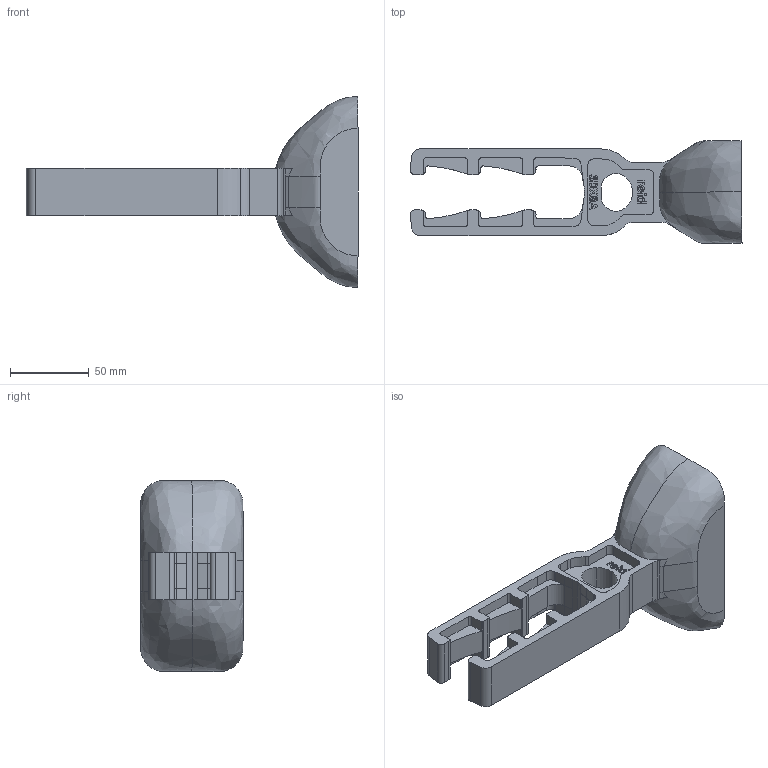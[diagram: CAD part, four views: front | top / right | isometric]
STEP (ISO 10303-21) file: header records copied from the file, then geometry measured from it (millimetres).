
FILE_DESCRIPTION (( 'STEP AP203' ), '1' );
FILE_NAME ('3DX8A and 3DX8AVF for BIM.STEP', '2025-04-08T06:23:18', ( '' ), ( '' ), 'SwSTEP 2.0', 'SolidWorks 2024', '' );
FILE_SCHEMA (( 'CONFIG_CONTROL_DESIGN' ));
Length unit declared in the file: millimetre
Products named in the file (1): 3DX8A and 3DX8AVF for BIM
Bounding box: 210.77 x 65.22 x 121.4 mm (x, y, z)
Volume: 360401.6 mm3; surface area: 60052.6 mm2
Topology: 1 solids, 5 shells, 731 faces, 1965 edges, 1306 vertices
Faces by surface type: plane 385, bspline 276, cylinder 62, cone 4, torus 4
Entity records: 35158 total; most frequent: CARTESIAN_POINT 18727, ORIENTED_EDGE 3930, DIRECTION 2422, EDGE_CURVE 1965, VERTEX_POINT 1306, VECTOR 1230, LINE 1230, EDGE_LOOP 795
